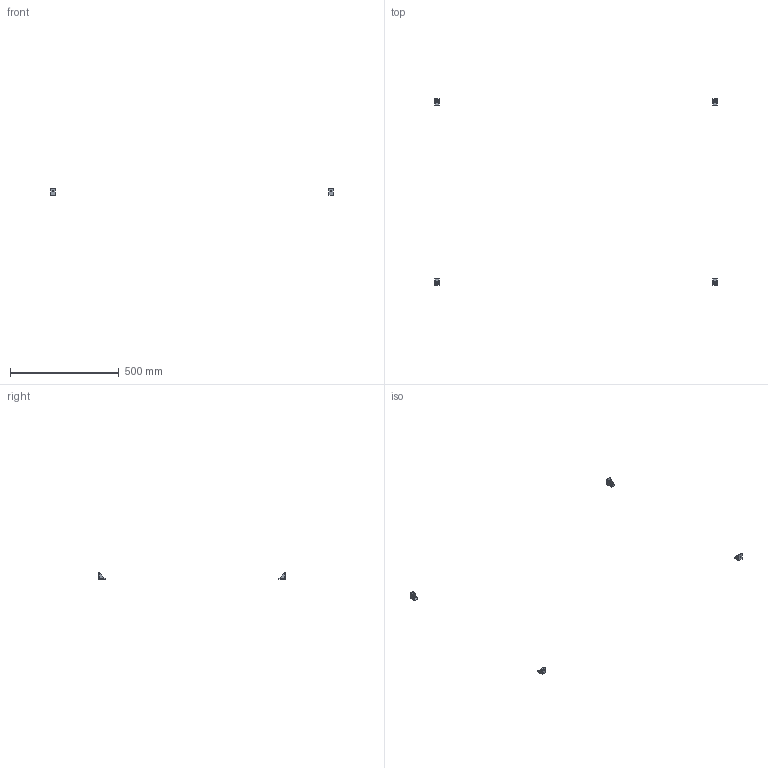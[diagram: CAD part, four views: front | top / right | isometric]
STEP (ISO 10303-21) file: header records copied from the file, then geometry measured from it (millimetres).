
FILE_DESCRIPTION(/* description */ (''),/* implementation_level */ '2;1');
FILE_NAME(/* name */ '12.frame-table#12.3#HBLFSN5',/* time_stamp */ '2014-12-01T20:19:42+01:00',/* author */ (''),/* organization */ (''),/* preprocessor_version */ 'ST-DEVELOPER v14',/* originating_system */ '',/* authorisation */ '');
FILE_SCHEMA (('AUTOMOTIVE_DESIGN'));
Length unit declared in the file: millimetre
Products named in the file (2): Document; angle bracket, single
Assembly tree (2 placements, depth 2):
  Document
    angle bracket, single  x2
Bounding box: 1300 x 860 x 30 mm (x, y, z)
Volume: 25421.1 mm3; surface area: 16877.4 mm2
Topology: 4 solids, 4 shells, 72 faces, 176 edges, 112 vertices
Faces by surface type: plane 48, bspline 24
Entity records: 3840 total; most frequent: CARTESIAN_POINT 1970, B_SPLINE_CURVE_WITH_KNOTS 342, ORIENTED_EDGE 264, PCURVE 264, DEFINITIONAL_REPRESENTATION 264, SURFACE_CURVE 132, EDGE_CURVE 132, VERTEX_POINT 84
